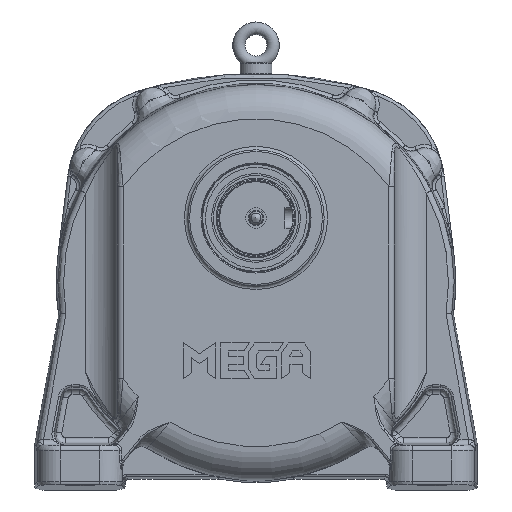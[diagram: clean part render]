
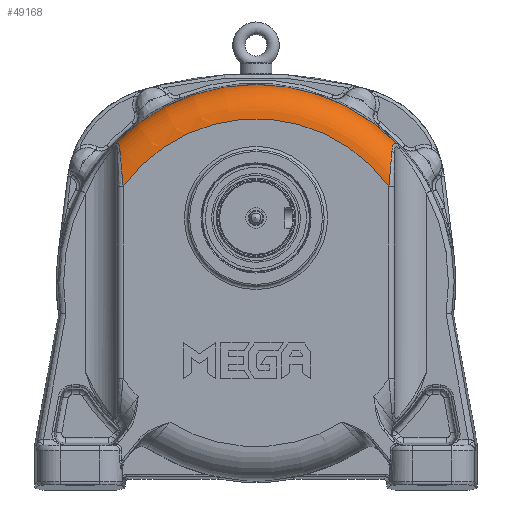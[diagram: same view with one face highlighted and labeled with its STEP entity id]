
A CAD part, front view. The second image highlights one B-rep face of the part: STEP entity #49168.
In plain terms, the highlighted toroidal (fillet/blend) face has major radius 144.309 mm and minor radius 30 mm.
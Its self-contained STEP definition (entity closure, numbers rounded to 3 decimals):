
#2570=B_SPLINE_CURVE_WITH_KNOTS('',3,(#81988,#81989,#81990,#81991,#81992,
#81993,#81994,#81995),.UNSPECIFIED.,.F.,.F.,(4,1,1,1,1,4),(0.,0.574,
0.862,1.436,1.723,2.011),
 .UNSPECIFIED.);
#2571=B_SPLINE_CURVE_WITH_KNOTS('',3,(#82028,#82029,#82030,#82031,#82032),
 .UNSPECIFIED.,.F.,.F.,(4,1,4),(-3.01,-1.29,0.),
 .UNSPECIFIED.);
#2583=B_SPLINE_CURVE_WITH_KNOTS('',3,(#82415,#82416,#82417,#82418,#82419,
#82420),.UNSPECIFIED.,.F.,.F.,(4,1,1,4),(-3.01,-2.15,
-1.29,0.),.UNSPECIFIED.);
#2585=B_SPLINE_CURVE_WITH_KNOTS('',3,(#82470,#82471,#82472,#82473,#82474,
#82475,#82476,#82477),.UNSPECIFIED.,.F.,.F.,(4,1,1,1,1,4),(-2.011,
-1.723,-1.436,-0.862,-0.574,
0.),.UNSPECIFIED.);
#10497=FACE_OUTER_BOUND('',#13438,.T.);
#13438=EDGE_LOOP('',(#33478,#33479,#33480,#33481,#33482,#33483));
#16334=CIRCLE('',#52093,144.309);
#16649=CIRCLE('',#52621,174.308);
#19628=VERTEX_POINT('',#75661);
#19629=VERTEX_POINT('',#75663);
#20058=VERTEX_POINT('',#81921);
#20060=VERTEX_POINT('',#81986);
#20073=VERTEX_POINT('',#82413);
#20075=VERTEX_POINT('',#82468);
#24401=EDGE_CURVE('',#19629,#19628,#16334,.T.);
#25110=EDGE_CURVE('',#20060,#20058,#2570,.T.);
#25112=EDGE_CURVE('',#19629,#20060,#2571,.T.);
#25135=EDGE_CURVE('',#20073,#19628,#2583,.T.);
#25138=EDGE_CURVE('',#20075,#20073,#2585,.T.);
#25144=EDGE_CURVE('',#20075,#20058,#16649,.T.);
#33478=ORIENTED_EDGE('',*,*,#25112,.F.);
#33479=ORIENTED_EDGE('',*,*,#24401,.T.);
#33480=ORIENTED_EDGE('',*,*,#25135,.F.);
#33481=ORIENTED_EDGE('',*,*,#25138,.F.);
#33482=ORIENTED_EDGE('',*,*,#25144,.T.);
#33483=ORIENTED_EDGE('',*,*,#25110,.F.);
#45769=TOROIDAL_SURFACE('',#52620,144.309,30.);
#49168=ADVANCED_FACE('',(#10497),#45769,.T.);
#52093=AXIS2_PLACEMENT_3D('',#75664,#58353,#58354);
#52620=AXIS2_PLACEMENT_3D('',#82554,#59590,#59591);
#52621=AXIS2_PLACEMENT_3D('',#82555,#59592,#59593);
#58353=DIRECTION('center_axis',(0.,1.,0.));
#58354=DIRECTION('ref_axis',(-1.,0.,0.));
#59590=DIRECTION('center_axis',(0.,1.,0.));
#59591=DIRECTION('ref_axis',(0.,0.,1.));
#59592=DIRECTION('center_axis',(0.,-1.,0.));
#59593=DIRECTION('ref_axis',(-1.,0.,0.));
#75661=CARTESIAN_POINT('',(106.798,-118.301,60.988));
#75663=CARTESIAN_POINT('',(-127.202,-118.301,60.988));
#75664=CARTESIAN_POINT('Origin',(-10.202,-118.301,-23.488));
#81921=CARTESIAN_POINT('',(-135.354,-88.611,97.839));
#81986=CARTESIAN_POINT('',(-129.84,-108.701,92.03));
#81988=CARTESIAN_POINT('Ctrl Pts',(-129.84,-108.701,
92.03));
#81989=CARTESIAN_POINT('Ctrl Pts',(-129.975,-107.323,
93.729));
#81990=CARTESIAN_POINT('Ctrl Pts',(-130.258,-104.929,
96.084));
#81991=CARTESIAN_POINT('Ctrl Pts',(-131.173,-100.029,
98.912));
#81992=CARTESIAN_POINT('Ctrl Pts',(-132.407,-95.528,
99.78));
#81993=CARTESIAN_POINT('Ctrl Pts',(-134.033,-91.364,
99.035));
#81994=CARTESIAN_POINT('Ctrl Pts',(-134.907,-89.493,
98.286));
#81995=CARTESIAN_POINT('Ctrl Pts',(-135.354,-88.611,
97.839));
#82028=CARTESIAN_POINT('Ctrl Pts',(-127.202,-118.301,
60.988));
#82029=CARTESIAN_POINT('Ctrl Pts',(-127.746,-118.301,
67.114));
#82030=CARTESIAN_POINT('Ctrl Pts',(-128.699,-116.913,
78.025));
#82031=CARTESIAN_POINT('Ctrl Pts',(-129.534,-111.794,88.216));
#82032=CARTESIAN_POINT('Ctrl Pts',(-129.84,-108.701,
92.03));
#82413=CARTESIAN_POINT('',(109.435,-108.701,92.03));
#82415=CARTESIAN_POINT('Ctrl Pts',(109.435,-108.701,92.03));
#82416=CARTESIAN_POINT('Ctrl Pts',(109.232,-110.763,89.488));
#82417=CARTESIAN_POINT('Ctrl Pts',(108.777,-114.094,83.895));
#82418=CARTESIAN_POINT('Ctrl Pts',(107.886,-117.548,73.331));
#82419=CARTESIAN_POINT('Ctrl Pts',(107.206,-118.301,65.583));
#82420=CARTESIAN_POINT('Ctrl Pts',(106.798,-118.301,60.988));
#82468=CARTESIAN_POINT('',(114.949,-88.611,97.839));
#82470=CARTESIAN_POINT('Ctrl Pts',(114.949,-88.611,97.839));
#82471=CARTESIAN_POINT('Ctrl Pts',(114.503,-89.493,98.287));
#82472=CARTESIAN_POINT('Ctrl Pts',(113.628,-91.365,99.036));
#82473=CARTESIAN_POINT('Ctrl Pts',(112.003,-95.527,99.78));
#82474=CARTESIAN_POINT('Ctrl Pts',(110.768,-100.029,98.912));
#82475=CARTESIAN_POINT('Ctrl Pts',(109.853,-104.929,96.084));
#82476=CARTESIAN_POINT('Ctrl Pts',(109.571,-107.323,93.729));
#82477=CARTESIAN_POINT('Ctrl Pts',(109.435,-108.701,92.03));
#82554=CARTESIAN_POINT('Origin',(-10.202,-88.301,-23.488));
#82555=CARTESIAN_POINT('Origin',(-10.202,-88.611,-23.488));
